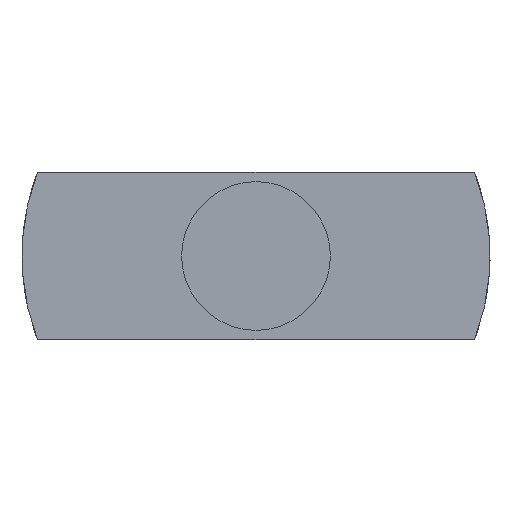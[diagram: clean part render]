
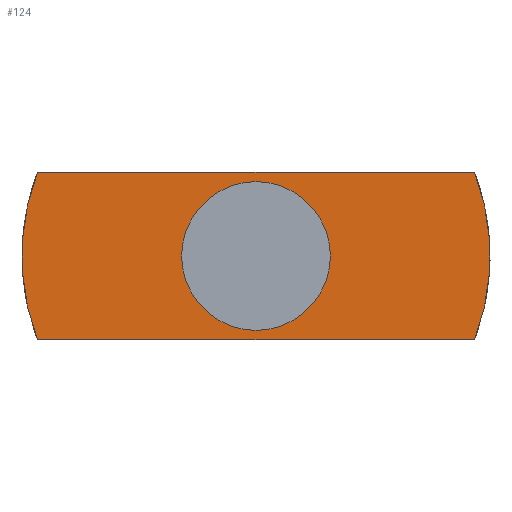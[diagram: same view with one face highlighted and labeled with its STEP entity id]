
A CAD part, front view. The second image highlights one B-rep face of the part: STEP entity #124.
In plain terms, the highlighted planar face has unit normal (0, -1, 0).
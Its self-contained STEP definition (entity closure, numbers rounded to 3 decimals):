
#44=FACE_BOUND('',#226,.T.);
#45=FACE_BOUND('',#227,.T.);
#82=CIRCLE('',#757,13.95);
#84=CIRCLE('',#760,4.435);
#87=CIRCLE('',#768,13.95);
#124=ADVANCED_FACE('',(#44,#45),#149,.F.);
#149=PLANE('',#769);
#226=EDGE_LOOP('',(#403,#404,#405,#406));
#227=EDGE_LOOP('',(#407));
#403=ORIENTED_EDGE('',*,*,#559,.F.);
#404=ORIENTED_EDGE('',*,*,#578,.F.);
#405=ORIENTED_EDGE('',*,*,#565,.F.);
#406=ORIENTED_EDGE('',*,*,#573,.F.);
#407=ORIENTED_EDGE('',*,*,#575,.T.);
#476=VERTEX_POINT('',#1133);
#477=VERTEX_POINT('',#1135);
#480=VERTEX_POINT('',#1144);
#481=VERTEX_POINT('',#1146);
#485=VERTEX_POINT('',#1163);
#559=EDGE_CURVE('',#476,#477,#629,.T.);
#565=EDGE_CURVE('',#480,#481,#635,.T.);
#573=EDGE_CURVE('',#477,#480,#82,.T.);
#575=EDGE_CURVE('',#485,#485,#84,.T.);
#578=EDGE_CURVE('',#481,#476,#87,.T.);
#629=LINE('',#1134,#689);
#635=LINE('',#1145,#695);
#689=VECTOR('',#926,1.);
#695=VECTOR('',#934,1.);
#757=AXIS2_PLACEMENT_3D('',#1158,#949,#950);
#760=AXIS2_PLACEMENT_3D('',#1162,#955,#956);
#768=AXIS2_PLACEMENT_3D('',#1171,#971,#972);
#769=AXIS2_PLACEMENT_3D('',#1172,#973,#974);
#926=DIRECTION('',(-1.,0.,0.));
#934=DIRECTION('',(1.,0.,0.));
#949=DIRECTION('',(0.,1.,0.));
#950=DIRECTION('',(0.,0.,1.));
#955=DIRECTION('',(0.,1.,0.));
#956=DIRECTION('',(0.,0.,1.));
#971=DIRECTION('',(0.,1.,0.));
#972=DIRECTION('',(0.,0.,1.));
#973=DIRECTION('',(0.,1.,0.));
#974=DIRECTION('',(0.,0.,1.));
#1133=CARTESIAN_POINT('',(13.023,-11.8,-5.));
#1134=CARTESIAN_POINT('',(4.435,-11.8,-5.));
#1135=CARTESIAN_POINT('',(-13.023,-11.8,-5.));
#1144=CARTESIAN_POINT('',(-13.023,-11.8,5.));
#1145=CARTESIAN_POINT('',(4.435,-11.8,5.));
#1146=CARTESIAN_POINT('',(13.023,-11.8,5.));
#1158=CARTESIAN_POINT('',(0.,-11.8,0.));
#1162=CARTESIAN_POINT('',(0.,-11.8,0.));
#1163=CARTESIAN_POINT('',(0.,-11.8,4.435));
#1171=CARTESIAN_POINT('',(0.,-11.8,0.));
#1172=CARTESIAN_POINT('',(4.435,-11.8,0.));
